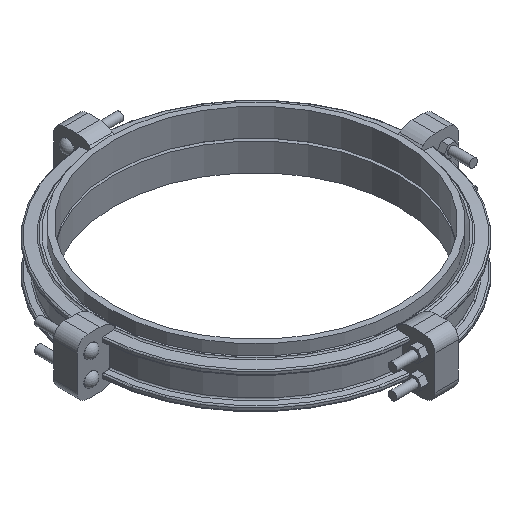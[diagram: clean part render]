
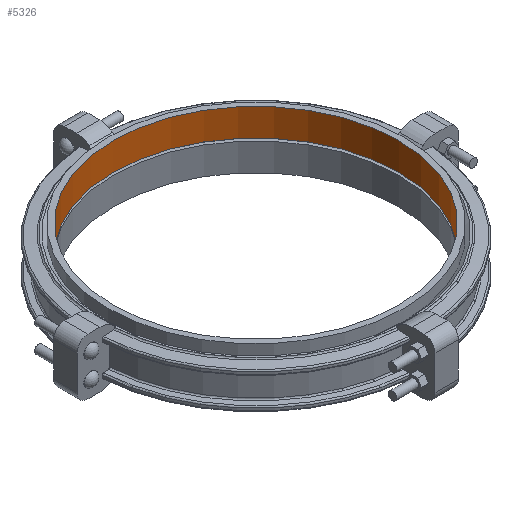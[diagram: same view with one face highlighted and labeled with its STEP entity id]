
A CAD part, isometric view. The second image highlights one B-rep face of the part: STEP entity #5326.
In plain terms, the highlighted cylindrical face has radius 660.4 mm (diameter 1320.8 mm), a full revolution.
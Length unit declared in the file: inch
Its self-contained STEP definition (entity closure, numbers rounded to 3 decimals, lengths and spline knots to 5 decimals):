
#270=CYLINDRICAL_SURFACE('',#5937,26.);
#588=FACE_OUTER_BOUND('',#906,.T.);
#906=EDGE_LOOP('',(#4630,#4631,#4632,#4633,#4634,#4635));
#1291=LINE('',#10065,#1674);
#1674=VECTOR('',#7388,26.);
#1927=CIRCLE('',#5935,26.);
#1928=CIRCLE('',#5936,26.);
#1929=CIRCLE('',#5938,26.);
#1930=CIRCLE('',#5939,26.);
#2431=VERTEX_POINT('',#10059);
#2432=VERTEX_POINT('',#10060);
#2433=VERTEX_POINT('',#10064);
#2434=VERTEX_POINT('',#10066);
#3165=EDGE_CURVE('',#2431,#2432,#1927,.T.);
#3166=EDGE_CURVE('',#2432,#2431,#1928,.T.);
#3167=EDGE_CURVE('',#2432,#2433,#1291,.T.);
#3168=EDGE_CURVE('',#2434,#2433,#1929,.T.);
#3169=EDGE_CURVE('',#2433,#2434,#1930,.T.);
#4630=ORIENTED_EDGE('',*,*,#3165,.T.);
#4631=ORIENTED_EDGE('',*,*,#3167,.T.);
#4632=ORIENTED_EDGE('',*,*,#3168,.F.);
#4633=ORIENTED_EDGE('',*,*,#3169,.F.);
#4634=ORIENTED_EDGE('',*,*,#3167,.F.);
#4635=ORIENTED_EDGE('',*,*,#3166,.T.);
#5326=ADVANCED_FACE('',(#588),#270,.F.);
#5935=AXIS2_PLACEMENT_3D('',#10061,#7382,#7383);
#5936=AXIS2_PLACEMENT_3D('',#10062,#7384,#7385);
#5937=AXIS2_PLACEMENT_3D('',#10063,#7386,#7387);
#5938=AXIS2_PLACEMENT_3D('',#10067,#7389,#7390);
#5939=AXIS2_PLACEMENT_3D('',#10068,#7391,#7392);
#7382=DIRECTION('center_axis',(0.,0.,-1.));
#7383=DIRECTION('ref_axis',(1.,0.,0.));
#7384=DIRECTION('center_axis',(0.,0.,-1.));
#7385=DIRECTION('ref_axis',(1.,0.,0.));
#7386=DIRECTION('center_axis',(0.,0.,-1.));
#7387=DIRECTION('ref_axis',(0.,1.,0.));
#7388=DIRECTION('',(0.,0.,1.));
#7389=DIRECTION('center_axis',(0.,0.,-1.));
#7390=DIRECTION('ref_axis',(1.,0.,0.));
#7391=DIRECTION('center_axis',(0.,0.,-1.));
#7392=DIRECTION('ref_axis',(1.,0.,0.));
#10059=CARTESIAN_POINT('',(0.,26.,0.));
#10060=CARTESIAN_POINT('',(0.,-26.,0.));
#10061=CARTESIAN_POINT('Origin',(0.,0.,0.));
#10062=CARTESIAN_POINT('Origin',(0.,0.,0.));
#10063=CARTESIAN_POINT('Origin',(0.,0.,2.5));
#10064=CARTESIAN_POINT('',(0.,-26.,5.));
#10065=CARTESIAN_POINT('',(0.,-26.,2.5));
#10066=CARTESIAN_POINT('',(0.,26.,5.));
#10067=CARTESIAN_POINT('Origin',(0.,0.,5.));
#10068=CARTESIAN_POINT('Origin',(0.,0.,5.));
